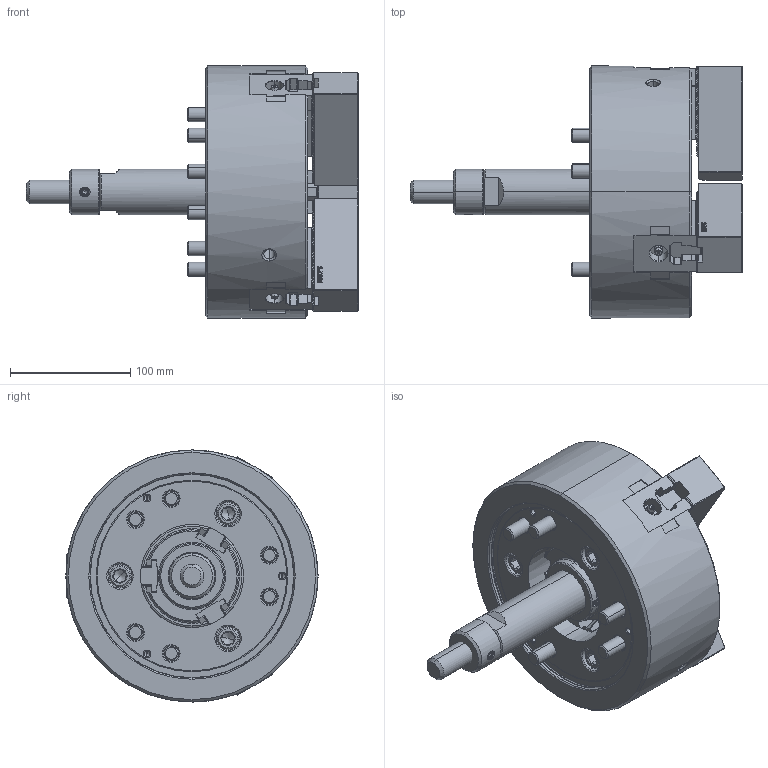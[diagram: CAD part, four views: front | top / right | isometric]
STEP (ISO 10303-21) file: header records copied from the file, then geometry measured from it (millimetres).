
FILE_DESCRIPTION (( 'STEP AP214' ), '1' );
FILE_NAME ('DT1_NL08_OUTSIDE_VIEW_HCL.STEP', '2026-03-19T05:27:34', ( '' ), ( '' ), 'SwSTEP 2.0', 'SolidWorks 2022', '' );
FILE_SCHEMA (( 'AUTOMOTIVE_DESIGN' ));
Length unit declared in the file: millimetre
Products named in the file (11): DT1_NL08_M12x35^DT1_NL08; DT1_NL08_M12x85^DT1_NL08; DT1_NL08_TNUT^DT1_NL08; DT1_NL08_DRAWSCREW^DT1_NL08; DT1_NL08_OUTSIDE_VIEW_HCL; DT1_NL08_COVER^DT1_NL08; DT1_NL08_SOFTJAW^DT1_NL08; Copy of 61P310518^DT1_NL08; DT1_NL08_BASE^DT1_NL08; DT1_NL08_M5x12^DT1_NL08; DT1_NL08_DN^DT1_NL08
Assembly tree (26 placements, depth 2):
  DT1_NL08_OUTSIDE_VIEW_HCL
    DT1_NL08_SOFTJAW^DT1_NL08  x3
    DT1_NL08_TNUT^DT1_NL08  x3
    DT1_NL08_COVER^DT1_NL08
    DT1_NL08_DRAWSCREW^DT1_NL08
    Copy of 61P310518^DT1_NL08
    DT1_NL08_M12x85^DT1_NL08  x6
    DT1_NL08_M12x35^DT1_NL08  x6
    DT1_NL08_M5x12^DT1_NL08  x3
    DT1_NL08_DN^DT1_NL08
    DT1_NL08_BASE^DT1_NL08
Bounding box: 276.5 x 210 x 210 mm (x, y, z)
Volume: 3121414.1 mm3; surface area: 395188.8 mm2
Topology: 26 solids, 26 shells, 4742 faces, 13369 edges, 8750 vertices
Faces by surface type: plane 2686, cylinder 1137, cone 427, bspline 414, torus 72, sphere 6
Entity records: 107760 total; most frequent: CARTESIAN_POINT 32639, ORIENTED_EDGE 17126, DIRECTION 13262, EDGE_CURVE 8563, VECTOR 5802, LINE 5802, VERTEX_POINT 5610, AXIS2_PLACEMENT_3D 3730
